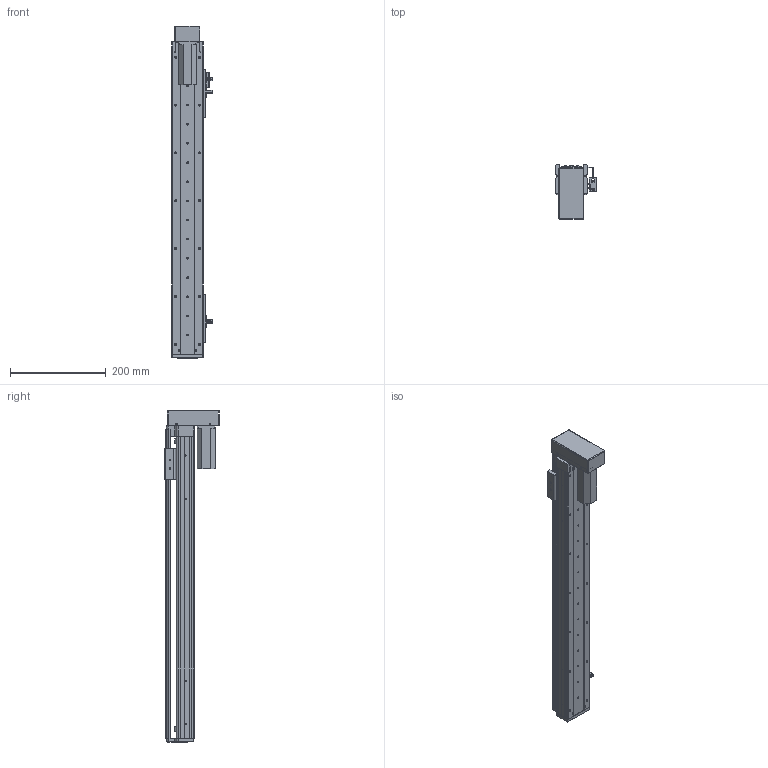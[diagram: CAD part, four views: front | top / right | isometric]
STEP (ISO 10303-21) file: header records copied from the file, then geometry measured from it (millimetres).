
FILE_DESCRIPTION (( 'STEP AP203' ), '1' );
FILE_NAME ('RY60-L1210-300-BK.SLDASM_500.step', '2021-02-20T06:42:15', ( '盈信电脑' ), ( '东莞市道滘镇水果街19号' ), 'SwSTEP 2.0', 'SolidWorks 2012', '' );
FILE_SCHEMA (( 'CONFIG_CONTROL_DESIGN' ));
Length unit declared in the file: millimetre
Products named in the file (13): RY60-L1210-300-BK.SLDASM_500; 侂狟100W; 滅袉蝶18-10; RY60狟殏萇儂欶100W; 覜茼ん672; RY60狟殏萇儂假蚾啣; RY80俋离覜茼え; RY60转折电机端支撑座; RY60-300倰第裔啣-BK_500; 672嫖萇羲壽假蚾釱; RY60臏賑輸; RY60綴裔啣; RY60-300倰第菁釱-BK_500
Assembly tree (18 placements, depth 2):
  RY60-L1210-300-BK.SLDASM_500
    RY60-300倰第菁釱-BK_500
    RY60臏賑輸
    RY60-300倰第裔啣-BK_500
    672嫖萇羲壽假蚾釱  x2
    RY60綴裔啣
    覜茼ん672  x3
    RY80俋离覜茼え
    RY60转折电机端支撑座
    RY60狟殏萇儂假蚾啣
    侂狟100W
    RY60狟殏萇儂欶100W
    滅袉蝶18-10  x4
Bounding box: 83.7 x 113.5 x 693 mm (x, y, z)
Volume: 912346.8 mm3; surface area: 459320 mm2
Topology: 18 solids, 18 shells, 1449 faces, 4055 edges, 2598 vertices
Faces by surface type: plane 719, cylinder 605, cone 108, bspline 17
Entity records: 43450 total; most frequent: CARTESIAN_POINT 10379, ORIENTED_EDGE 6678, DIRECTION 6469, EDGE_CURVE 3339, AXIS2_PLACEMENT_3D 2218, VERTEX_POINT 2178, VECTOR 2033, LINE 2033
